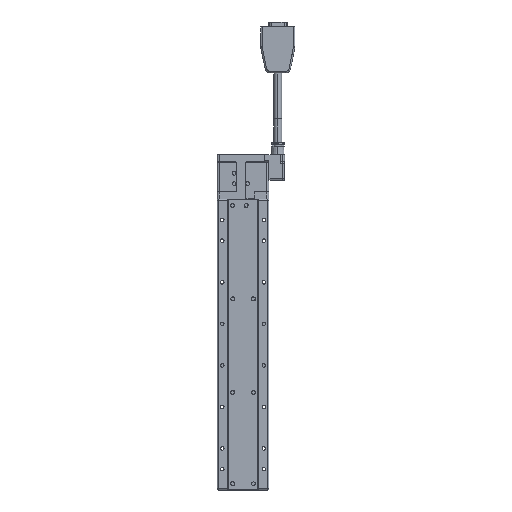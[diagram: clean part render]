
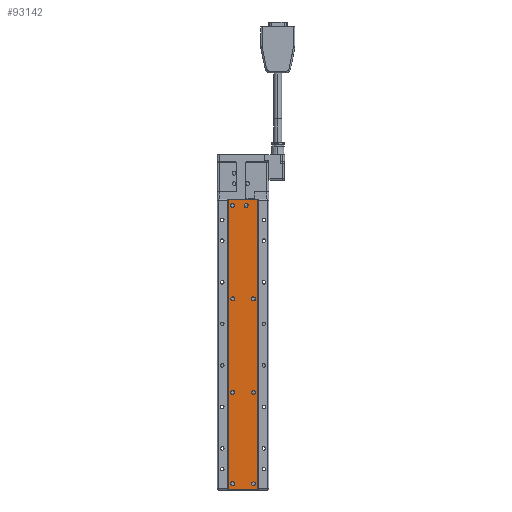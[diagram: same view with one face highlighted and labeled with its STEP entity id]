
A CAD part, front view. The second image highlights one B-rep face of the part: STEP entity #93142.
In plain terms, the highlighted planar face has unit normal (0, -1, 0).
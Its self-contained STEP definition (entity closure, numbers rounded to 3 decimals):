
#1855 = VERTEX_POINT ( 'NONE', #122269 ) ;
#2913 = CARTESIAN_POINT ( 'NONE',  ( -14.3, 0.8, 279.8 ) ) ;
#3635 = FACE_OUTER_BOUND ( 'NONE', #132124, .T. ) ;
#4324 = EDGE_CURVE ( 'NONE', #79437, #48512, #38111, .T. ) ;
#5845 = LINE ( 'NONE', #42299, #72861 ) ;
#8879 = ORIENTED_EDGE ( 'NONE', *, *, #117324, .T. ) ;
#14276 = DIRECTION ( 'NONE',  ( 0., 1., 0. ) ) ;
#16537 = CIRCLE ( 'NONE', #79673, 1.8 ) ;
#16590 = DIRECTION ( 'NONE',  ( 1., 0., 0. ) ) ;
#18757 = DIRECTION ( 'NONE',  ( 0., 0., -1. ) ) ;
#19252 = CARTESIAN_POINT ( 'NONE',  ( 14.3, 0.8, 0.2 ) ) ;
#20859 = EDGE_CURVE ( 'NONE', #1855, #78095, #16537, .T. ) ;
#22868 = ORIENTED_EDGE ( 'NONE', *, *, #134834, .T. ) ;
#28064 = CARTESIAN_POINT ( 'NONE',  ( 10., 0.8, 7.8 ) ) ;
#36029 = EDGE_CURVE ( 'NONE', #78095, #1855, #136688, .T. ) ;
#36327 = CARTESIAN_POINT ( 'NONE',  ( -14.3, 0.8, 279.8 ) ) ;
#38111 = LINE ( 'NONE', #143679, #124458 ) ;
#42299 = CARTESIAN_POINT ( 'NONE',  ( -14.3, 0.8, 0.2 ) ) ;
#43416 = DIRECTION ( 'NONE',  ( 0., 0., -1. ) ) ;
#43884 = DIRECTION ( 'NONE',  ( 0., 0., 1. ) ) ;
#44172 = CARTESIAN_POINT ( 'NONE',  ( 10., 0.8, 6. ) ) ;
#44906 = DIRECTION ( 'NONE',  ( 0., 1., 0. ) ) ;
#46117 = LINE ( 'NONE', #115229, #141287 ) ;
#48512 = VERTEX_POINT ( 'NONE', #2913 ) ;
#49978 = FACE_BOUND ( 'NONE', #106402, .T. ) ;
#50842 = CARTESIAN_POINT ( 'NONE',  ( -14.3, 0.8, 0.2 ) ) ;
#52400 = CARTESIAN_POINT ( 'NONE',  ( 10., 0.8, 6. ) ) ;
#54213 = VECTOR ( 'NONE', #16590, 1000. ) ;
#66263 = ORIENTED_EDGE ( 'NONE', *, *, #20859, .T. ) ;
#72306 = DIRECTION ( 'NONE',  ( -1., 0., 0. ) ) ;
#72861 = VECTOR ( 'NONE', #18757, 1000. ) ;
#76643 = VERTEX_POINT ( 'NONE', #19252 ) ;
#78095 = VERTEX_POINT ( 'NONE', #28064 ) ;
#79437 = VERTEX_POINT ( 'NONE', #103963 ) ;
#79673 = AXIS2_PLACEMENT_3D ( 'NONE', #52400, #98732, #110119 ) ;
#81517 = EDGE_CURVE ( 'NONE', #76643, #79437, #46117, .T. ) ;
#83413 = DIRECTION ( 'NONE',  ( -1., 0., 0. ) ) ;
#88114 = AXIS2_PLACEMENT_3D ( 'NONE', #36327, #14276, #83413 ) ;
#92949 = ORIENTED_EDGE ( 'NONE', *, *, #36029, .T. ) ;
#93142 = ADVANCED_FACE ( 'NONE', ( #49978, #3635 ), #117583, .F. ) ;
#98732 = DIRECTION ( 'NONE',  ( 0., 1., 0. ) ) ;
#99484 = VERTEX_POINT ( 'NONE', #50842 ) ;
#103963 = CARTESIAN_POINT ( 'NONE',  ( 14.3, 0.8, 279.8 ) ) ;
#104783 = LINE ( 'NONE', #116915, #54213 ) ;
#106402 = EDGE_LOOP ( 'NONE', ( #66263, #92949 ) ) ;
#109977 = AXIS2_PLACEMENT_3D ( 'NONE', #44172, #44906, #43416 ) ;
#110119 = DIRECTION ( 'NONE',  ( 0., 0., -1. ) ) ;
#115229 = CARTESIAN_POINT ( 'NONE',  ( 14.3, 0.8, 0.2 ) ) ;
#116915 = CARTESIAN_POINT ( 'NONE',  ( -14.3, 0.8, 0.2 ) ) ;
#117324 = EDGE_CURVE ( 'NONE', #99484, #76643, #104783, .T. ) ;
#117583 = PLANE ( 'NONE',  #88114 ) ;
#118094 = ORIENTED_EDGE ( 'NONE', *, *, #81517, .T. ) ;
#122269 = CARTESIAN_POINT ( 'NONE',  ( 10., 0.8, 4.2 ) ) ;
#124458 = VECTOR ( 'NONE', #72306, 1000. ) ;
#132124 = EDGE_LOOP ( 'NONE', ( #22868, #8879, #118094, #143598 ) ) ;
#134834 = EDGE_CURVE ( 'NONE', #48512, #99484, #5845, .T. ) ;
#136688 = CIRCLE ( 'NONE', #109977, 1.8 ) ;
#141287 = VECTOR ( 'NONE', #43884, 1000. ) ;
#143598 = ORIENTED_EDGE ( 'NONE', *, *, #4324, .T. ) ;
#143679 = CARTESIAN_POINT ( 'NONE',  ( -14.3, 0.8, 279.8 ) ) ;
